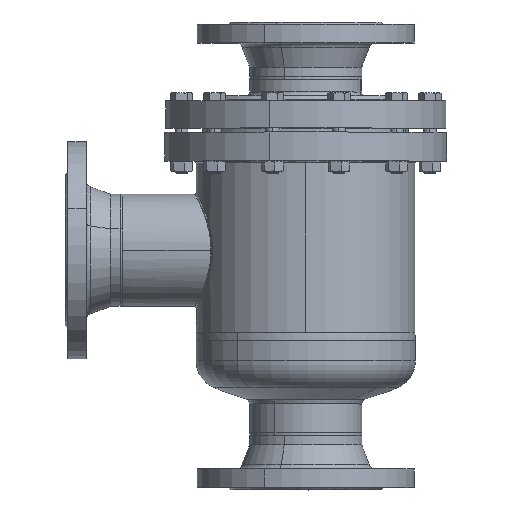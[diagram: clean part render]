
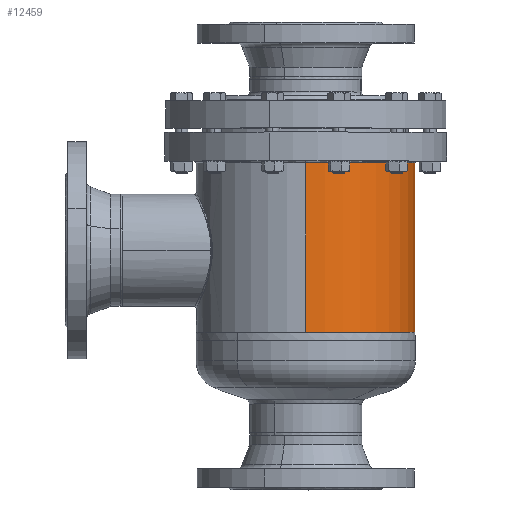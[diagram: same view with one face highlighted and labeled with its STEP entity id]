
A CAD part, top view. The second image highlights one B-rep face of the part: STEP entity #12459.
In plain terms, the highlighted cylindrical face has radius 136 mm (diameter 272 mm), a partial arc.
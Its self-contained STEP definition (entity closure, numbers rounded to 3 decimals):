
#1681 = VERTEX_POINT ( 'NONE', #35714 ) ;
#2117 = EDGE_CURVE ( 'NONE', #1681, #3882, #36240, .T. ) ;
#2861 = ORIENTED_EDGE ( 'NONE', *, *, #2117, .F. ) ;
#35714 = CARTESIAN_POINT ( 'NONE',  ( 0., 207.688, 136. ) ) ;
#36240 = CIRCLE ( 'NONE', #36241, 136. ) ;
#36241 = AXIS2_PLACEMENT_3D ( 'NONE', #36242, #36243, #36244 ) ;
#36242 = CARTESIAN_POINT ( 'NONE',  ( 0., 207.688, 0. ) ) ;
#36243 = DIRECTION ( 'NONE',  ( 0., 1., 0. ) ) ;
#36244 = DIRECTION ( 'NONE',  ( 0., 0., 1. ) ) ;
#3882 = VERTEX_POINT ( 'NONE', #38008 ) ;
#4330 = EDGE_CURVE ( 'NONE', #30396, #3882, #38381, .T. ) ;
#4984 = ORIENTED_EDGE ( 'NONE', *, *, #4330, .T. ) ;
#38008 = CARTESIAN_POINT ( 'NONE',  ( 0., 207.688, -136. ) ) ;
#38381 = LINE ( 'NONE', #38382, #38383 ) ;
#38382 = CARTESIAN_POINT ( 'NONE',  ( 0., 45.442, -136. ) ) ;
#38383 = VECTOR ( 'NONE', #38384, 1000. ) ;
#38384 = DIRECTION ( 'NONE',  ( 0., 1., 0. ) ) ;
#22218 = FACE_OUTER_BOUND ( 'NONE', #11996, .T. ) ;
#22241 = CYLINDRICAL_SURFACE ( 'NONE', #22242, 136. ) ;
#22242 = AXIS2_PLACEMENT_3D ( 'NONE', #22243, #22244, #22245 ) ;
#22243 = CARTESIAN_POINT ( 'NONE',  ( 0., 45.442, 0. ) ) ;
#22244 = DIRECTION ( 'NONE',  ( 0., 1., 0. ) ) ;
#22245 = DIRECTION ( 'NONE',  ( 0., 0., 1. ) ) ;
#25005 = CARTESIAN_POINT ( 'NONE',  ( 0., -5.155, 136. ) ) ;
#25433 = CIRCLE ( 'NONE', #25434, 136. ) ;
#25434 = AXIS2_PLACEMENT_3D ( 'NONE', #25435, #25436, #25437 ) ;
#25435 = CARTESIAN_POINT ( 'NONE',  ( 0., -5.155, 0. ) ) ;
#25436 = DIRECTION ( 'NONE',  ( 0., 1., 0. ) ) ;
#25437 = DIRECTION ( 'NONE',  ( 0., 0., 1. ) ) ;
#25588 = LINE ( 'NONE', #25589, #25590 ) ;
#25589 = CARTESIAN_POINT ( 'NONE',  ( 0., 45.442, 136. ) ) ;
#25590 = VECTOR ( 'NONE', #25591, 1000. ) ;
#25591 = DIRECTION ( 'NONE',  ( 0., 1., 0. ) ) ;
#25679 = EDGE_CURVE ( 'NONE', #14979, #1681, #25588, .T. ) ;
#26409 = ORIENTED_EDGE ( 'NONE', *, *, #25679, .F. ) ;
#10963 = ORIENTED_EDGE ( 'NONE', *, *, #15273, .T. ) ;
#11996 = EDGE_LOOP ( 'NONE', ( #10963, #4984, #2861, #26409 ) ) ;
#12459 = ADVANCED_FACE ( 'NONE', ( #22218 ), #22241, .T. ) ;
#30308 = CARTESIAN_POINT ( 'NONE',  ( 0., -5.155, -136. ) ) ;
#30396 = VERTEX_POINT ( 'NONE', #30308 ) ;
#14979 = VERTEX_POINT ( 'NONE', #25005 ) ;
#15273 = EDGE_CURVE ( 'NONE', #14979, #30396, #25433, .T. ) ;
